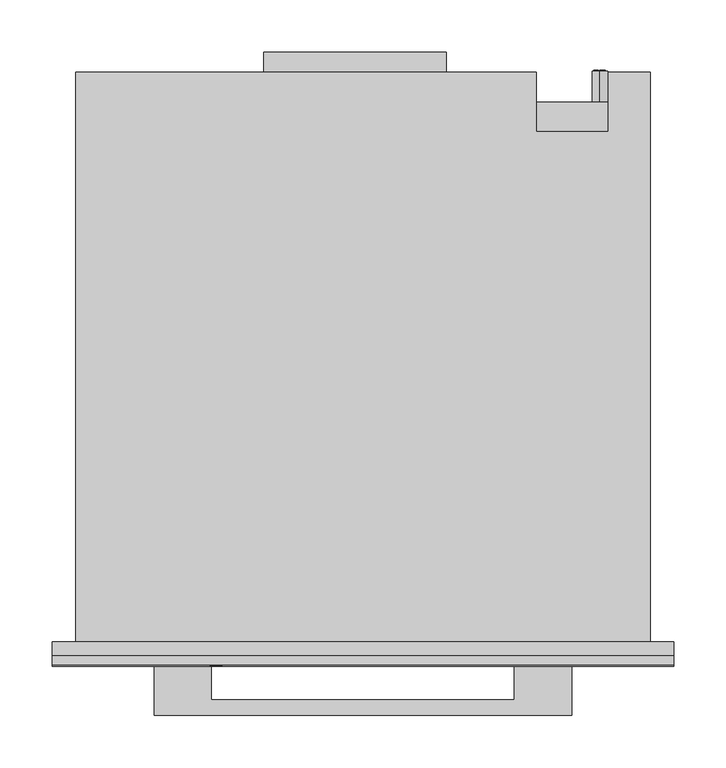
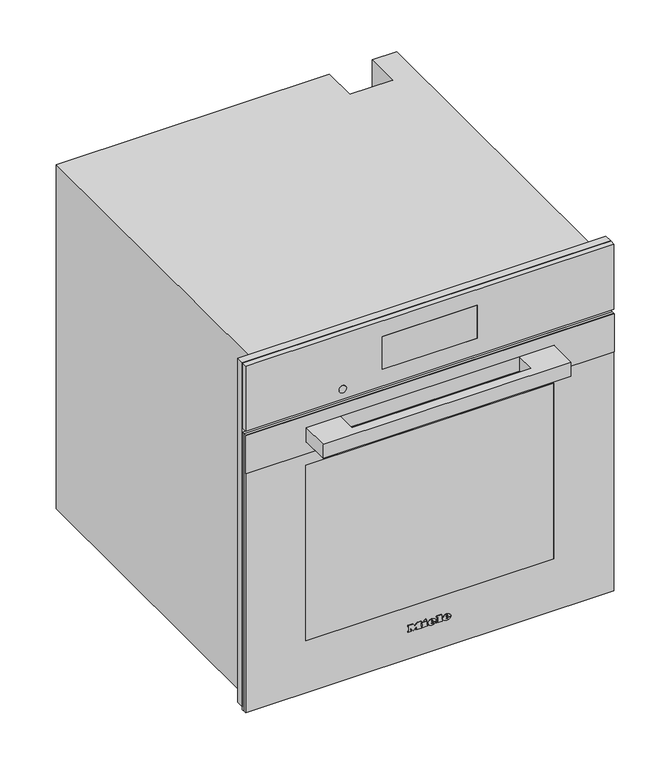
"""IFC4 building model written with IfcOpenShell, lengths in millimetres: proxy geometry, 11876980_USA_DGC7860_EDST-CLST : 23786043_USA_11876980_DGC7860_EDST-CLST."""

from ifc_helpers import new_model, si_unit, point, frame, frame_2d, origin, place, context, project, spatial, polyline, circle_curve, ellipse_curve, trimmed, segment, composite_curve, outline, extrude, faceted_brep, source, transform, mapped, element, save
from ifc_brep_helpers import plane_surface, cylinder_surface, revolved_surface, extruded_surface, advanced_brep


def specialty_equipment_789c08d1(model_context):
    return source(origin(), model_context, "Body", "SolidModel", [
        extrude(outline(polyline([(596.0, 297.5), (596.0, -297.5), (9.0, -297.5), (9.0, 297.5), (596.0, 297.5)]), holes=[polyline([(485.0, -272.5), (485.0, 272.5), (27.0, 272.5), (27.0, -272.5), (485.0, -272.5)])]), frame((0.0, -13.0, 0.0), z_axis=(0.0, 1.0, 0.0), x_axis=(0.0, 0.0, 1.0)), (0.0, 0.0, 1.0), 13.0),
        extrude(outline(polyline([(-95.0, 565.0), (80.0, 565.0), (80.0, 546.0), (-95.0, 546.0), (-95.0, 565.0)])), frame((0.0, 0.0, 311.0), z_axis=(0.0, 0.0, 1.0), x_axis=(1.0, 0.0, 0.0)), (0.0, 0.0, 1.0), 1.0),
        advanced_brep(
        [(227.0, 547.0, 396.5), (227.0, 547.0, 381.5), (221.4098301, 547.0, 384.0), (225.5, 547.0, 384.0), (225.5, 547.0, 394.0), (224.4955303, 547.0, 394.0), (224.4955303, 547.0, 385.0), (221.0315043, 547.0, 385.0), (221.0315043, 547.0, 384.4582978), (232.0, 547.0, 384.0), (232.0, 547.0, 394.0), (227.0, 547.0, 394.0), (227.0, 547.0, 393.0), (231.0, 547.0, 393.0), (231.0, 547.0, 389.5), (228.0, 547.0, 389.5), (228.0, 547.0, 388.5), (231.0, 547.0, 388.5), (231.0, 547.0, 385.0), (227.0, 547.0, 385.0), (227.0, 547.0, 384.0), (227.0, 517.0, 381.5), (227.0, 517.0, 396.5), (232.0, 548.0, 394.0), (232.0, 548.0, 384.0), (227.0, 548.0, 384.0), (227.0, 548.0, 385.0), (231.0, 548.0, 385.0), (231.0, 548.0, 388.5), (228.0, 548.0, 388.5), (228.0, 548.0, 389.5), (231.0, 548.0, 389.5), (231.0, 548.0, 393.0), (227.0, 548.0, 393.0), (227.0, 548.0, 394.0), (225.5, 548.0, 384.0), (221.0315043, 548.0, 384.0), (221.0315043, 548.0, 385.0), (224.4955303, 548.0, 385.0), (224.4955303, 548.0, 394.0), (225.5, 548.0, 394.0), (221.0315043, 547.0, 384.0)],
        [
            (0, 1, circle_curve(frame((227.0, 547.0, 389.0), z_axis=(0.0, 1.0, 0.0), x_axis=(0.0, 0.0, 1.0)), 7.5)),
            (1, 2, circle_curve(frame((227.0, 547.0, 389.0), z_axis=(0.0, 1.0, 0.0), x_axis=(0.0, 0.0, 1.0)), 7.5)),
            (2, 3),
            (3, 4),
            (4, 5),
            (5, 6),
            (6, 7),
            (7, 8),
            (8, 0, circle_curve(frame((227.0, 547.0, 389.0), z_axis=(0.0, 1.0, 0.0), x_axis=(0.0, 0.0, 1.0)), 7.5)),
            (9, 10),
            (10, 11),
            (11, 12),
            (12, 13),
            (13, 14),
            (14, 15),
            (15, 16),
            (16, 17),
            (17, 18),
            (18, 19),
            (19, 20),
            (20, 9),
            (21, 22, circle_curve(frame((227.0, 517.0, 389.0), z_axis=(0.0, -1.0, 0.0), x_axis=(0.0, 0.0, 1.0)), 7.5)),
            (22, 21, circle_curve(frame((227.0, 517.0, 389.0), z_axis=(0.0, -1.0, 0.0), x_axis=(0.0, 0.0, 1.0)), 7.5)),
            (0, 22),
            (21, 1),
            (8, 2, circle_curve(frame((227.0, 547.0, 389.0), z_axis=(0.0, -1.0, 0.0), x_axis=(0.0, 0.0, 1.0)), 7.5)),
            (23, 24),
            (24, 25),
            (25, 26),
            (26, 27),
            (27, 28),
            (28, 29),
            (29, 30),
            (30, 31),
            (31, 32),
            (32, 33),
            (33, 34),
            (34, 23),
            (35, 36),
            (36, 37),
            (37, 38),
            (38, 39),
            (39, 40),
            (40, 35),
            (8, 41),
            (41, 2),
            (23, 10),
            (9, 24),
            (20, 25),
            (19, 26),
            (18, 27),
            (17, 28),
            (16, 29),
            (15, 30),
            (14, 31),
            (13, 32),
            (12, 33),
            (11, 34),
            (35, 3),
            (41, 36),
            (7, 37),
            (6, 38),
            (5, 39),
            (4, 40),
        ],
        [
            plane_surface(frame((227.0, 547.0, 396.5), z_axis=(0.0, 1.0, 0.0), x_axis=(1.0, 0.0, 0.0))),
            plane_surface(frame((227.0, 517.0, 396.5), z_axis=(0.0, -1.0, 0.0), x_axis=(-1.0, 0.0, 0.0))),
            cylinder_surface(frame((227.0, 547.0, 389.0), z_axis=(0.0, -1.0, 0.0), x_axis=(0.0, 0.0, 1.0)), 7.5),
            plane_surface(frame((232.0, 548.0, 394.0), z_axis=(0.0, 1.0, 0.0), x_axis=(0.0, 0.0, -1.0))),
            plane_surface(frame((232.0, 547.0, 394.0), z_axis=(0.0, -1.0, 0.0), x_axis=(0.0, 0.0, 1.0))),
            plane_surface(frame((232.0, 548.0, 394.0), z_axis=(1.0, 0.0, 0.0), x_axis=(0.0, -1.0, 0.0))),
            plane_surface(frame((232.0, 548.0, 384.0), z_axis=(0.0, 0.0, -1.0), x_axis=(0.0, -1.0, 0.0))),
            plane_surface(frame((227.0, 548.0, 384.0), z_axis=(-1.0, 0.0, 0.0), x_axis=(0.0, -1.0, 0.0))),
            plane_surface(frame((227.0, 548.0, 385.0), z_axis=(0.0, 0.0, 1.0), x_axis=(0.0, -1.0, 0.0))),
            plane_surface(frame((231.0, 548.0, 385.0), z_axis=(-1.0, 0.0, 0.0), x_axis=(0.0, -1.0, 0.0))),
            plane_surface(frame((231.0, 548.0, 388.5), z_axis=(0.0, 0.0, -1.0), x_axis=(0.0, -1.0, 0.0))),
            plane_surface(frame((228.0, 548.0, 388.5), z_axis=(-1.0, 0.0, 0.0), x_axis=(0.0, -1.0, 0.0))),
            plane_surface(frame((228.0, 548.0, 389.5), z_axis=(0.0, 0.0, 1.0), x_axis=(0.0, -1.0, 0.0))),
            plane_surface(frame((231.0, 548.0, 389.5), z_axis=(-1.0, 0.0, 0.0), x_axis=(0.0, -1.0, 0.0))),
            plane_surface(frame((231.0, 548.0, 393.0), z_axis=(0.0, 0.0, -1.0), x_axis=(0.0, -1.0, 0.0))),
            plane_surface(frame((227.0, 548.0, 393.0), z_axis=(-1.0, 0.0, 0.0), x_axis=(0.0, -1.0, 0.0))),
            plane_surface(frame((227.0, 548.0, 394.0), z_axis=(0.0, 0.0, 1.0), x_axis=(0.0, -1.0, 0.0))),
            plane_surface(frame((225.5, 548.0, 384.0), z_axis=(0.0, 0.0, -1.0), x_axis=(0.0, -1.0, 0.0))),
            plane_surface(frame((221.0315043, 548.0, 384.0), z_axis=(-1.0, 0.0, 0.0), x_axis=(0.0, -1.0, 0.0))),
            plane_surface(frame((221.0315043, 548.0, 385.0), z_axis=(0.0, 0.0, 1.0), x_axis=(0.0, -1.0, 0.0))),
            plane_surface(frame((224.4955303, 548.0, 385.0), z_axis=(-1.0, 0.0, 0.0), x_axis=(0.0, -1.0, 0.0))),
            plane_surface(frame((224.4955303, 548.0, 394.0), z_axis=(0.0, 0.0, 1.0), x_axis=(0.0, -1.0, 0.0))),
            plane_surface(frame((225.5, 548.0, 394.0), z_axis=(1.0, 0.0, 0.0), x_axis=(0.0, -1.0, 0.0))),
        ],
        [
            (0, [[1, 2, 3, 4, 5, 6, 7, 8, 9], [10, 11, 12, 13, 14, 15, 16, 17, 18, 19, 20, 21]]),
            (1, [[22, 23]]),
            (2, [[-1, 24, -22, 25]]),
            (2, [[-23, -24, -9, 26, -2, -25]]),
            (3, [[27, 28, 29, 30, 31, 32, 33, 34, 35, 36, 37, 38]]),
            (3, [[39, 40, 41, 42, 43, 44]]),
            (4, [[45, 46, -26]]),
            (5, [[-27, 47, -10, 48]]),
            (6, [[-28, -48, -21, 49]]),
            (7, [[-29, -49, -20, 50]]),
            (8, [[-30, -50, -19, 51]]),
            (9, [[-31, -51, -18, 52]]),
            (10, [[-32, -52, -17, 53]]),
            (11, [[-33, -53, -16, 54]]),
            (12, [[-34, -54, -15, 55]]),
            (13, [[-35, -55, -14, 56]]),
            (14, [[-36, -56, -13, 57]]),
            (15, [[-37, -57, -12, 58]]),
            (16, [[-38, -58, -11, -47]]),
            (17, [[-39, 59, -3, -46, 60]]),
            (18, [[-40, -60, -45, -8, 61]]),
            (19, [[-41, -61, -7, 62]]),
            (20, [[-42, -62, -6, 63]]),
            (21, [[-43, -63, -5, 64]]),
            (22, [[-44, -64, -4, -59]]),
        ],
    ),
        faceted_brep([(-275.0, 546.0, 0.0), (-275.0, 546.0, 588.0), (166.0, 546.0, 588.0), (166.0, 546.0, 0.0), (235.0, 546.0, 588.0), (275.0, 546.0, 588.0), (275.0, 546.0, 478.0), (235.0, 546.0, 478.0), (275.0, 0.0, 588.0), (-275.0, 0.0, 588.0), (-275.0, 0.0, 0.0), (275.0, 0.0, 0.0), (-272.5, 0.0, 485.0), (272.5, 0.0, 485.0), (272.5, 0.0, 27.0), (-272.5, 0.0, 27.0), (235.0, 489.0, 588.0), (166.0, 489.0, 588.0), (166.0, 517.0, 0.0), (275.0, 517.0, 0.0), (275.0, 517.0, 478.0), (272.5, 17.0, 485.0), (-272.5, 17.0, 485.0), (-272.5, 17.0, 27.0), (272.5, 17.0, 27.0), (231.0, 17.0, 409.0), (231.0, 17.0, 61.0), (-231.0, 17.0, 61.0), (-231.0, 17.0, 409.0), (231.0, 411.0, 409.0), (-231.0, 411.0, 409.0), (-231.0, 411.0, 61.0), (231.0, 411.0, 61.0), (235.0, 489.0, 477.0), (166.0, 489.0, 477.0), (166.0, 517.0, 477.0), (235.0, 517.0, 477.0), (235.0, 517.0, 478.0)], [[[0, 1, 2, 3]], [[4, 5, 6, 7]], [[8, 9, 10, 11], [12, 13, 14, 15]], [[9, 8, 5, 4, 16, 17, 2, 1]], [[1, 0, 10, 9]], [[11, 10, 0, 3, 18, 19]], [[8, 11, 19, 20, 6, 5]], [[21, 22, 23, 24], [25, 26, 27, 28]], [[22, 21, 13, 12]], [[23, 22, 12, 15]], [[24, 23, 15, 14]], [[21, 24, 14, 13]], [[29, 30, 31, 32]], [[29, 32, 26, 25]], [[32, 31, 27, 26]], [[31, 30, 28, 27]], [[30, 29, 25, 28]], [[16, 33, 34, 17]], [[17, 34, 35, 18, 3, 2]], [[34, 33, 36, 35]], [[33, 16, 4, 7, 37, 36]], [[37, 20, 19, 18, 35, 36]], [[20, 37, 7, 6]]]),
        advanced_brep(
        [(26.2998, -23.0, 52.7018), (26.2998, -23.0, 53.8532), (33.9264, -23.0, 53.8532), (20.6568, -23.0, 53.8532), (23.7918, -23.0, 50.0), (33.7326, -23.0, 52.7018), (30.2898, -23.0, 52.7018), (27.5766, -23.0, 51.425), (26.2998, -23.0, 55.3124), (26.2998, -23.0, 56.555), (28.2492, -23.0, 56.555), (28.2492, -23.0, 55.3124), (26.2998, -22.0, 52.7018), (27.5766, -22.0, 51.425), (30.2898, -22.0, 52.7018), (33.7326, -22.0, 52.7018), (23.7918, -22.0, 50.0), (20.6568, -22.0, 53.8532), (33.9264, -22.0, 53.8532), (26.2998, -22.0, 53.8532), (26.2998, -22.0, 55.3124), (28.2492, -22.0, 55.3124), (28.2492, -22.0, 56.555), (26.2998, -22.0, 56.555)],
        [
            (0, 1),
            (1, 2),
            (2, 3, ellipse_curve(frame((27.2916, -23.0, 53.8532), z_axis=(0.0, -1.0, 0.0), x_axis=(-1.0, 0.0, 0.0)), 6.6348, 5.4834)),
            (3, 4, circle_curve(frame((25.0686622, -23.0, 54.2408), z_axis=(0.0, -1.0, 0.0), x_axis=(0.0, 0.0, -1.0)), 4.4288556)),
            (4, 5, circle_curve(frame((27.1587808, -23.0, 57.2504), z_axis=(0.0, -1.0, 0.0), x_axis=(0.0, 0.0, -1.0)), 7.9940516)),
            (5, 6),
            (6, 7, circle_curve(frame((28.1338588, -23.0, 53.762), z_axis=(0.0, 1.0, 0.0), x_axis=(0.0, 0.0, -1.0)), 2.4025208)),
            (7, 0, circle_curve(frame((27.5766, -23.0, 52.7018), z_axis=(0.0, 1.0, 0.0), x_axis=(0.0, 0.0, -1.0)), 1.2768)),
            (8, 9),
            (9, 10, circle_curve(frame((27.2745, -23.0, 56.555), z_axis=(0.0, 1.0, 0.0), x_axis=(0.0, 0.0, -1.0)), 0.9747)),
            (10, 11),
            (11, 8),
            (12, 13, circle_curve(frame((27.5766, -22.0, 52.7018), z_axis=(0.0, -1.0, 0.0), x_axis=(0.0, 0.0, -1.0)), 1.2768)),
            (13, 14, circle_curve(frame((28.1338588, -22.0, 53.762), z_axis=(0.0, -1.0, 0.0), x_axis=(0.0, 0.0, -1.0)), 2.4025208)),
            (14, 15),
            (15, 16, circle_curve(frame((27.1587808, -22.0, 57.2504), z_axis=(0.0, 1.0, 0.0), x_axis=(0.0, 0.0, -1.0)), 7.9940516)),
            (16, 17, circle_curve(frame((25.0686622, -22.0, 54.2408), z_axis=(0.0, 1.0, 0.0), x_axis=(0.0, 0.0, -1.0)), 4.4288556)),
            (17, 18, ellipse_curve(frame((27.2916, -22.0, 53.8532), z_axis=(0.0, 1.0, 0.0), x_axis=(-1.0, 0.0, 0.0)), 6.6348, 5.4834)),
            (18, 19),
            (19, 12),
            (20, 21),
            (21, 22),
            (22, 23, circle_curve(frame((27.2745, -22.0, 56.555), z_axis=(0.0, -1.0, 0.0), x_axis=(0.0, 0.0, -1.0)), 0.9747)),
            (23, 20),
            (0, 12),
            (19, 1),
            (18, 2),
            (5, 15),
            (14, 6),
            (17, 3),
            (13, 7),
            (16, 4),
            (8, 20),
            (23, 9),
            (22, 10),
            (21, 11),
        ],
        [
            plane_surface(frame((26.2998, -23.0, 53.8532), z_axis=(0.0, -1.0, 0.0), x_axis=(0.0, 0.0, 1.0))),
            plane_surface(frame((26.2998, -22.0, 53.8532), z_axis=(0.0, 1.0, 0.0), x_axis=(0.0, 0.0, -1.0))),
            plane_surface(frame((26.2998, -23.0, 52.7018), z_axis=(1.0, 0.0, 0.0), x_axis=(0.0, 1.0, 0.0))),
            plane_surface(frame((26.2998, -23.0, 53.8532), z_axis=(0.0, 0.0, -1.0), x_axis=(0.0, 1.0, 0.0))),
            plane_surface(frame((33.7326, -23.0, 52.7018), z_axis=(0.0, 0.0, 1.0), x_axis=(0.0, 1.0, 0.0))),
            extruded_surface(trimmed(ellipse_curve(frame((27.2916, -21.0, 53.8532), z_axis=(0.0, -1.0, 0.0), x_axis=(-1.0, 0.0, 0.0)), 6.6348, 5.4834), [point((33.9264, -21.0, 53.8532))], [point((20.6568, -21.0, 53.8532))], True, "CARTESIAN"), (0.0, -1.0, 0.0), 1.0),
            revolved_surface(polyline([(28.1338588, -22.0, 51.3594792), (28.1338588, -23.0, 51.3594792)]), (28.1338588, -22.0, 53.762), (0.0, 1.0, 0.0)),
            revolved_surface(polyline([(27.5766, -22.0, 51.425), (27.5766, -23.0, 51.425)]), (27.5766, -22.0, 52.7018), (0.0, 1.0, 0.0)),
            cylinder_surface(frame((25.0686622, -22.0, 54.2408), z_axis=(0.0, -1.0, 0.0), x_axis=(0.0, 0.0, -1.0)), 4.4288556),
            cylinder_surface(frame((27.1587808, -22.0, 57.2504), z_axis=(0.0, -1.0, 0.0), x_axis=(0.0, 0.0, -1.0)), 7.9940516),
            plane_surface(frame((26.2998, -23.0, 55.3124), z_axis=(1.0, 0.0, 0.0), x_axis=(0.0, 1.0, 0.0))),
            revolved_surface(polyline([(27.2745, -22.0, 55.5803), (27.2745, -23.0, 55.5803)]), (27.2745, -22.0, 56.555), (0.0, 1.0, 0.0)),
            plane_surface(frame((28.2492, -23.0, 56.555), z_axis=(-1.0, 0.0, 0.0), x_axis=(0.0, 1.0, 0.0))),
            plane_surface(frame((28.2492, -23.0, 55.3124), z_axis=(0.0, 0.0, 1.0), x_axis=(0.0, 1.0, 0.0))),
        ],
        [
            (0, [[1, 2, 3, 4, 5, 6, 7, 8], [9, 10, 11, 12]]),
            (1, [[13, 14, 15, 16, 17, 18, 19, 20], [21, 22, 23, 24]]),
            (2, [[-1, 25, -20, 26]]),
            (3, [[-2, -26, -19, 27]]),
            (4, [[-6, 28, -15, 29]]),
            (5, [[-3, -27, -18, 30]]),
            (6, [[-7, -29, -14, 31]]),
            (7, [[-8, -31, -13, -25]]),
            (8, [[-4, -30, -17, 32]]),
            (9, [[-5, -32, -16, -28]]),
            (10, [[-9, 33, -24, 34]]),
            (11, [[-10, -34, -23, 35]]),
            (12, [[-11, -35, -22, 36]]),
            (13, [[-12, -36, -21, -33]]),
        ],
    ),
        advanced_brep(
        [(2.508, -23.0, 52.7018), (2.508, -23.0, 53.8532), (10.1346, -23.0, 53.8532), (-3.135, -23.0, 53.8532), (0.0, -23.0, 50.0), (9.9408, -23.0, 52.7018), (6.498, -23.0, 52.7018), (3.7848, -23.0, 51.425), (2.508, -23.0, 55.3124), (2.508, -23.0, 56.555), (4.4574, -23.0, 56.555), (4.4574, -23.0, 55.3124), (2.508, -22.0, 52.7018), (3.7848, -22.0, 51.425), (6.498, -22.0, 52.7018), (9.9408, -22.0, 52.7018), (0.0, -22.0, 50.0), (-3.135, -22.0, 53.8532), (10.1346, -22.0, 53.8532), (2.508, -22.0, 53.8532), (2.508, -22.0, 55.3124), (4.4574, -22.0, 55.3124), (4.4574, -22.0, 56.555), (2.508, -22.0, 56.555)],
        [
            (0, 1),
            (1, 2),
            (2, 3, ellipse_curve(frame((3.4998, -23.0, 53.8532), z_axis=(0.0, -1.0, 0.0), x_axis=(-1.0, 0.0, 0.0)), 6.6348, 5.4834)),
            (3, 4, circle_curve(frame((1.2768622, -23.0, 54.2408), z_axis=(0.0, -1.0, 0.0), x_axis=(0.0, 0.0, -1.0)), 4.4288556)),
            (4, 5, circle_curve(frame((3.3669808, -23.0, 57.2504), z_axis=(0.0, -1.0, 0.0), x_axis=(0.0, 0.0, -1.0)), 7.9940516)),
            (5, 6),
            (6, 7, circle_curve(frame((4.3420588, -23.0, 53.762), z_axis=(0.0, 1.0, 0.0), x_axis=(0.0, 0.0, -1.0)), 2.4025208)),
            (7, 0, circle_curve(frame((3.7848, -23.0, 52.7018), z_axis=(0.0, 1.0, 0.0), x_axis=(0.0, 0.0, -1.0)), 1.2768)),
            (8, 9),
            (9, 10, circle_curve(frame((3.4827, -23.0, 56.555), z_axis=(0.0, 1.0, 0.0), x_axis=(0.0, 0.0, -1.0)), 0.9747)),
            (10, 11),
            (11, 8),
            (12, 13, circle_curve(frame((3.7848, -22.0, 52.7018), z_axis=(0.0, -1.0, 0.0), x_axis=(0.0, 0.0, -1.0)), 1.2768)),
            (13, 14, circle_curve(frame((4.3420588, -22.0, 53.762), z_axis=(0.0, -1.0, 0.0), x_axis=(0.0, 0.0, -1.0)), 2.4025208)),
            (14, 15),
            (15, 16, circle_curve(frame((3.3669808, -22.0, 57.2504), z_axis=(0.0, 1.0, 0.0), x_axis=(0.0, 0.0, -1.0)), 7.9940516)),
            (16, 17, circle_curve(frame((1.2768622, -22.0, 54.2408), z_axis=(0.0, 1.0, 0.0), x_axis=(0.0, 0.0, -1.0)), 4.4288556)),
            (17, 18, ellipse_curve(frame((3.4998, -22.0, 53.8532), z_axis=(0.0, 1.0, 0.0), x_axis=(-1.0, 0.0, 0.0)), 6.6348, 5.4834)),
            (18, 19),
            (19, 12),
            (20, 21),
            (21, 22),
            (22, 23, circle_curve(frame((3.4827, -22.0, 56.555), z_axis=(0.0, -1.0, 0.0), x_axis=(0.0, 0.0, -1.0)), 0.9747)),
            (23, 20),
            (0, 12),
            (19, 1),
            (18, 2),
            (5, 15),
            (14, 6),
            (17, 3),
            (13, 7),
            (16, 4),
            (8, 20),
            (23, 9),
            (22, 10),
            (21, 11),
        ],
        [
            plane_surface(frame((2.508, -23.0, 53.8532), z_axis=(0.0, -1.0, 0.0), x_axis=(0.0, 0.0, 1.0))),
            plane_surface(frame((2.508, -22.0, 53.8532), z_axis=(0.0, 1.0, 0.0), x_axis=(0.0, 0.0, -1.0))),
            plane_surface(frame((2.508, -23.0, 52.7018), z_axis=(1.0, 0.0, 0.0), x_axis=(0.0, 1.0, 0.0))),
            plane_surface(frame((2.508, -23.0, 53.8532), z_axis=(0.0, 0.0, -1.0), x_axis=(0.0, 1.0, 0.0))),
            plane_surface(frame((9.9408, -23.0, 52.7018), z_axis=(0.0, 0.0, 1.0), x_axis=(0.0, 1.0, 0.0))),
            extruded_surface(trimmed(ellipse_curve(frame((3.4998, -21.0, 53.8532), z_axis=(0.0, -1.0, 0.0), x_axis=(-1.0, 0.0, 0.0)), 6.6348, 5.4834), [point((10.1346, -21.0, 53.8532))], [point((-3.135, -21.0, 53.8532))], True, "CARTESIAN"), (0.0, -1.0, 0.0), 1.0),
            revolved_surface(polyline([(4.3420588, -22.0, 51.3594792), (4.3420588, -23.0, 51.3594792)]), (4.3420588, -22.0, 53.762), (0.0, 1.0, 0.0)),
            revolved_surface(polyline([(3.7848, -22.0, 51.425), (3.7848, -23.0, 51.425)]), (3.7848, -22.0, 52.7018), (0.0, 1.0, 0.0)),
            cylinder_surface(frame((1.2768622, -22.0, 54.2408), z_axis=(0.0, -1.0, 0.0), x_axis=(0.0, 0.0, -1.0)), 4.4288556),
            cylinder_surface(frame((3.3669808, -22.0, 57.2504), z_axis=(0.0, -1.0, 0.0), x_axis=(0.0, 0.0, -1.0)), 7.9940516),
            plane_surface(frame((2.508, -23.0, 55.3124), z_axis=(1.0, 0.0, 0.0), x_axis=(0.0, 1.0, 0.0))),
            revolved_surface(polyline([(3.4827, -22.0, 55.5803), (3.4827, -23.0, 55.5803)]), (3.4827, -22.0, 56.555), (0.0, 1.0, 0.0)),
            plane_surface(frame((4.4574, -23.0, 56.555), z_axis=(-1.0, 0.0, 0.0), x_axis=(0.0, 1.0, 0.0))),
            plane_surface(frame((4.4574, -23.0, 55.3124), z_axis=(0.0, 0.0, 1.0), x_axis=(0.0, 1.0, 0.0))),
        ],
        [
            (0, [[1, 2, 3, 4, 5, 6, 7, 8], [9, 10, 11, 12]]),
            (1, [[13, 14, 15, 16, 17, 18, 19, 20], [21, 22, 23, 24]]),
            (2, [[-1, 25, -20, 26]]),
            (3, [[-2, -26, -19, 27]]),
            (4, [[-6, 28, -15, 29]]),
            (5, [[-3, -27, -18, 30]]),
            (6, [[-7, -29, -14, 31]]),
            (7, [[-8, -31, -13, -25]]),
            (8, [[-4, -30, -17, 32]]),
            (9, [[-5, -32, -16, -28]]),
            (10, [[-9, 33, -24, 34]]),
            (11, [[-10, -34, -23, 35]]),
            (12, [[-11, -35, -22, 36]]),
            (13, [[-12, -36, -21, -33]]),
        ],
    ),
        extrude(outline(polyline([(60.7274, -9.9522), (58.8806, -9.0858), (60.6818, -5.2212), (62.5286, -6.0762), (60.7274, -9.9522)])), frame((0.0, -23.0, 0.0), z_axis=(0.0, 1.0, 0.0), x_axis=(0.0, 0.0, 1.0)), (0.0, 0.0, 1.0), 1.0),
        extrude(outline(polyline([(58.6298, -12.768), (56.5892, -12.768), (56.5892, -11.4114), (51.9152, -11.4114), (51.9152, -12.768), (50.0, -12.768), (50.0, -3.7734), (51.9152, -3.7734), (51.9152, -5.0958), (58.6298, -5.0958), (58.6298, -12.768)])), frame((0.0, -23.0, 0.0), z_axis=(0.0, 1.0, 0.0), x_axis=(0.0, 0.0, 1.0)), (0.0, 0.0, 1.0), 1.0),
        extrude(outline(polyline([(59.5418, 10.773), (59.5418, 12.141), (51.9152, 12.141), (51.9152, 10.773), (50.0, 10.773), (50.0, 20.0184), (51.9152, 20.0184), (51.9152, 18.6162), (61.4, 18.6162), (61.4, 10.773), (59.5418, 10.773)])), frame((0.0, -23.0, 0.0), z_axis=(0.0, 1.0, 0.0), x_axis=(0.0, 0.0, 1.0)), (0.0, 0.0, 1.0), 1.0),
        extrude(outline(polyline([(59.5418, -35.4882), (59.5418, -34.1088), (51.9152, -34.1088), (51.9152, -35.4882), (50.0, -35.4882), (50.0, -30.4722), (51.9152, -30.4722), (51.9152, -31.8402), (56.7429247, -31.8402), (50.0, -26.7444), (56.9402223, -21.6258), (51.9152, -21.6258), (51.9152, -23.028), (50.0, -23.028), (50.0, -13.9308), (51.9152, -13.9308), (51.9152, -15.3786), (59.5418, -15.3786), (59.5418, -13.9308), (61.4, -13.9308), (61.4, -20.8734), (57.125, -24.2022), (61.4, -27.5424), (61.4, -35.4882), (59.5418, -35.4882)])), frame((0.0, -23.0, 0.0), z_axis=(0.0, 1.0, 0.0), x_axis=(0.0, 0.0, 1.0)), (0.0, 0.0, 1.0), 1.0),
        extrude(outline(composite_curve([segment(trimmed(circle_curve(frame_2d((502.0, -140.5745637)), 6.0), [point((502.0, -146.5745637))], [point((502.0, -134.5745637))], False, "CARTESIAN"), True, "CONTINUOUS"), segment(trimmed(circle_curve(frame_2d((502.0, -140.5745637)), 6.0), [point((502.0, -134.5745637))], [point((502.0, -146.5745637))], False, "CARTESIAN"), True, "CONTINUOUS")], self_intersect=False)), frame((0.0, -22.5, 0.0), z_axis=(0.0, 1.0, 0.0), x_axis=(0.0, 0.0, 1.0)), (0.0, 0.0, 1.0), 1.0),
        extrude(outline(polyline([(-76.5, -21.0), (76.5, -21.0), (76.5, -22.0), (-76.5, -22.0), (-76.5, -21.0)])), frame((0.0, 0.0, 513.0), z_axis=(0.0, 0.0, 1.0), x_axis=(1.0, 0.0, 0.0)), (0.0, 0.0, 1.0), 56.0),
        faceted_brep([(297.5, -22.0, 596.0), (-297.5, -22.0, 596.0), (-297.5, -22.0, 485.0), (297.5, -22.0, 485.0), (76.5, -22.0, 569.0), (76.5, -22.0, 513.0), (-76.5, -22.0, 513.0), (-76.5, -22.0, 569.0), (297.5, -13.0, 596.0), (297.5, -13.0, 485.0), (-297.5, -13.0, 485.0), (-297.5, -13.0, 596.0), (76.5, -21.0, 569.0), (-76.5, -21.0, 569.0), (-76.5, -21.0, 513.0), (76.5, -21.0, 513.0)], [[[0, 1, 2, 3], [4, 5, 6, 7]], [[8, 9, 10, 11]], [[1, 0, 8, 11]], [[2, 1, 11, 10]], [[3, 2, 10, 9]], [[0, 3, 9, 8]], [[12, 13, 14, 15]], [[12, 15, 5, 4]], [[15, 14, 6, 5]], [[14, 13, 7, 6]], [[13, 12, 4, 7]]]),
        extrude(outline(polyline([(200.0, -22.0), (-200.0, -22.0), (-200.0, -18.0), (200.0, -18.0), (200.0, -22.0)])), frame((0.0, 0.0, 92.5), z_axis=(0.0, 0.0, 1.0), x_axis=(1.0, 0.0, 0.0)), (0.0, 0.0, 1.0), 300.0),
        extrude(outline(polyline([(478.0, 297.5), (478.0, -297.5), (4.0, -297.5), (4.0, 297.5), (478.0, 297.5)]), holes=[polyline([(392.5, -200.0), (392.5, 200.0), (92.5, 200.0), (92.5, -200.0), (392.5, -200.0)])]), frame((0.0, -22.0, 0.0), z_axis=(0.0, 1.0, 0.0), x_axis=(0.0, 0.0, 1.0)), (0.0, 0.0, 1.0), 4.0),
        extrude(outline(polyline([(478.0, 297.5), (478.0, -297.5), (413.0, -297.5), (413.0, 297.5), (478.0, 297.5)]), holes=[polyline([(458.0, -200.5), (458.0, 200.5), (433.0, 200.5), (433.0, -200.5), (458.0, -200.5)])]), frame((0.0, -23.3, 0.0), z_axis=(0.0, 1.0, 0.0), x_axis=(0.0, 0.0, 1.0)), (0.0, 0.0, 1.0), 1.3),
        extrude(outline(polyline([(-200.0, -70.3), (-200.0, -22.0), (-145.0, -22.0), (-145.0, -55.3), (145.0, -55.3), (145.0, -22.0), (200.0, -22.0), (200.0, -70.3), (-200.0, -70.3)])), frame((0.0, 0.0, 433.5), z_axis=(0.0, 0.0, 1.0), x_axis=(1.0, 0.0, 0.0)), (0.0, 0.0, 1.0), 24.0),
        extrude(outline(polyline([(297.5, -18.0), (-297.5, -18.0), (-297.5, -13.0), (297.5, -13.0), (297.5, -18.0)])), frame((0.0, 0.0, 4.0), z_axis=(0.0, 0.0, 1.0), x_axis=(1.0, 0.0, 0.0)), (0.0, 0.0, 1.0), 474.0),
    ])


if __name__ == "__main__":
    model = new_model("IFC4")
    model_context = context("Model", 3, world=origin())
    ifc_project = project(units=[si_unit("LENGTHUNIT", "METRE", prefix="MILLI")], contexts=[model_context])
    site = spatial("IfcSite", under=ifc_project)
    building = spatial("IfcBuilding", under=site)
    placement = place(None, origin())
    specialty_equipment_shape = specialty_equipment_789c08d1(model_context)
    element("IfcBuildingElementProxy", 1, Name="11876980_USA_DGC7860_EDST-CLST : 23786043_USA_11876980_DGC7860_EDST-CLST", ObjectType="11876980_USA_DGC7860_EDST-CLST : 23786043_USA_11876980_DGC7860_EDST-CLST", at=placement, inside=building, context=model_context, shape_type="MappedRepresentation", body=[
        mapped(specialty_equipment_shape, transform((0.0, 0.0, 0.0), x_axis=(1.0, 0.0, 0.0), y_axis=(0.0, 1.0, 0.0), z_axis=(0.0, 0.0, 1.0))),
    ])
    save(model, "model.ifc")
